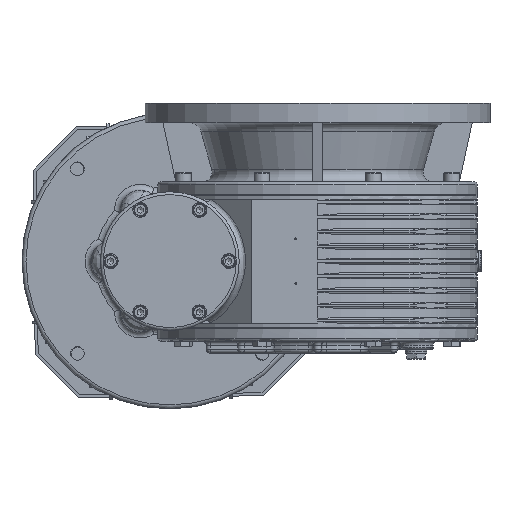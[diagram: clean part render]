
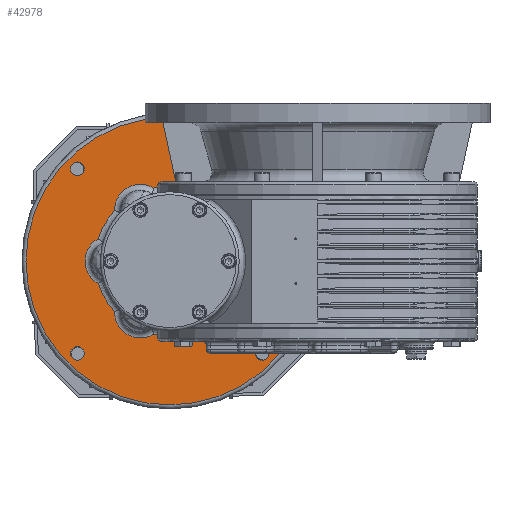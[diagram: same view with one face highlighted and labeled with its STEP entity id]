
A CAD part, left-side view. The second image highlights one B-rep face of the part: STEP entity #42978.
In plain terms, the highlighted planar face has unit normal (-1, 0, 0) as drawn and (1, 0, 0) by its records, which use the part's own axes.
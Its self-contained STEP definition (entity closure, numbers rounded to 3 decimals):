
#42804=CARTESIAN_POINT('',(15.0,146.0,0.));
#42805=VERTEX_POINT('',#42804);
#42806=CARTESIAN_POINT('',(15.0,0.0,0.0));
#42807=DIRECTION('',(-1.0,0.0,0.0));
#42808=DIRECTION('',(0.0,-1.0,0.0));
#42809=AXIS2_PLACEMENT_3D('',#42806,#42807,#42808);
#42810=CIRCLE('',#42809,146.0);
#42811=EDGE_CURVE('',#42805,#42805,#42810,.T.);
#42816=CARTESIAN_POINT('',(15.0,110.0,0.0));
#42817=DIRECTION('',(1.0,0.0,0.0));
#42818=DIRECTION('',(0.0,0.0,-1.0));
#42819=AXIS2_PLACEMENT_3D('',#42816,#42817,#42818);
#42820=PLANE('',#42819);
#42821=ORIENTED_EDGE('',*,*,#42811,.F.);
#42822=EDGE_LOOP('',(#42821));
#42823=FACE_OUTER_BOUND('',#42822,.T.);
#42824=CARTESIAN_POINT('',(15.0,16.506,74.186));
#42825=VERTEX_POINT('',#42824);
#42826=CARTESIAN_POINT('',(15.0,-16.506,74.186));
#42827=VERTEX_POINT('',#42826);
#42828=CARTESIAN_POINT('',(15.0,0.0,0.0));
#42829=DIRECTION('',(1.0,0.0,0.0));
#42830=DIRECTION('',(0.0,0.0,1.0));
#42831=AXIS2_PLACEMENT_3D('',#42828,#42829,#42830);
#42832=CIRCLE('',#42831,76.0);
#42833=EDGE_CURVE('',#42825,#42827,#42832,.T.);
#42834=ORIENTED_EDGE('',*,*,#42833,.F.);
#42835=CARTESIAN_POINT('',(15.0,55.994,51.388));
#42836=VERTEX_POINT('',#42835);
#42837=CARTESIAN_POINT('',(15.0,30.,51.962));
#42838=DIRECTION('',(1.0,0.0,0.0));
#42839=DIRECTION('',(0.0,0.5,0.866));
#42840=AXIS2_PLACEMENT_3D('',#42837,#42838,#42839);
#42841=CIRCLE('',#42840,26.);
#42842=EDGE_CURVE('',#42836,#42825,#42841,.T.);
#42843=ORIENTED_EDGE('',*,*,#42842,.F.);
#42844=CARTESIAN_POINT('',(15.0,72.5,22.798));
#42845=VERTEX_POINT('',#42844);
#42846=CARTESIAN_POINT('',(15.0,0.0,0.0));
#42847=DIRECTION('',(1.0,0.0,0.0));
#42848=DIRECTION('',(0.0,0.866,0.5));
#42849=AXIS2_PLACEMENT_3D('',#42846,#42847,#42848);
#42850=CIRCLE('',#42849,76.0);
#42851=EDGE_CURVE('',#42845,#42836,#42850,.T.);
#42852=ORIENTED_EDGE('',*,*,#42851,.F.);
#42853=CARTESIAN_POINT('',(15.0,72.5,-22.798));
#42854=VERTEX_POINT('',#42853);
#42855=CARTESIAN_POINT('',(15.0,60.0,0.));
#42856=DIRECTION('',(1.0,0.0,0.0));
#42857=DIRECTION('',(0.0,1.0,0.0));
#42858=AXIS2_PLACEMENT_3D('',#42855,#42856,#42857);
#42859=CIRCLE('',#42858,26.);
#42860=EDGE_CURVE('',#42854,#42845,#42859,.T.);
#42861=ORIENTED_EDGE('',*,*,#42860,.F.);
#42862=CARTESIAN_POINT('',(15.0,55.994,-51.388));
#42863=VERTEX_POINT('',#42862);
#42864=CARTESIAN_POINT('',(15.0,0.0,0.0));
#42865=DIRECTION('',(1.0,0.0,0.0));
#42866=DIRECTION('',(0.0,0.866,-0.5));
#42867=AXIS2_PLACEMENT_3D('',#42864,#42865,#42866);
#42868=CIRCLE('',#42867,76.);
#42869=EDGE_CURVE('',#42863,#42854,#42868,.T.);
#42870=ORIENTED_EDGE('',*,*,#42869,.F.);
#42871=CARTESIAN_POINT('',(15.0,16.506,-74.186));
#42872=VERTEX_POINT('',#42871);
#42873=CARTESIAN_POINT('',(15.0,30.,-51.962));
#42874=DIRECTION('',(1.0,0.0,0.0));
#42875=DIRECTION('',(0.0,0.5,-0.866));
#42876=AXIS2_PLACEMENT_3D('',#42873,#42874,#42875);
#42877=CIRCLE('',#42876,26.);
#42878=EDGE_CURVE('',#42872,#42863,#42877,.T.);
#42879=ORIENTED_EDGE('',*,*,#42878,.F.);
#42880=CARTESIAN_POINT('',(15.0,-16.506,-74.186));
#42881=VERTEX_POINT('',#42880);
#42882=CARTESIAN_POINT('',(15.0,0.0,0.0));
#42883=DIRECTION('',(1.0,0.0,0.0));
#42884=DIRECTION('',(0.0,0.0,-1.0));
#42885=AXIS2_PLACEMENT_3D('',#42882,#42883,#42884);
#42886=CIRCLE('',#42885,76.0);
#42887=EDGE_CURVE('',#42881,#42872,#42886,.T.);
#42888=ORIENTED_EDGE('',*,*,#42887,.F.);
#42889=CARTESIAN_POINT('',(15.0,-55.994,-51.388));
#42890=VERTEX_POINT('',#42889);
#42891=CARTESIAN_POINT('',(15.0,-30.,-51.962));
#42892=DIRECTION('',(1.0,0.0,0.0));
#42893=DIRECTION('',(0.0,-0.5,-0.866));
#42894=AXIS2_PLACEMENT_3D('',#42891,#42892,#42893);
#42895=CIRCLE('',#42894,26.0);
#42896=EDGE_CURVE('',#42890,#42881,#42895,.T.);
#42897=ORIENTED_EDGE('',*,*,#42896,.F.);
#42898=CARTESIAN_POINT('',(15.0,-72.5,-22.798));
#42899=VERTEX_POINT('',#42898);
#42900=CARTESIAN_POINT('',(15.0,0.0,0.0));
#42901=DIRECTION('',(1.0,0.0,0.0));
#42902=DIRECTION('',(0.0,-0.866,-0.5));
#42903=AXIS2_PLACEMENT_3D('',#42900,#42901,#42902);
#42904=CIRCLE('',#42903,76.);
#42905=EDGE_CURVE('',#42899,#42890,#42904,.T.);
#42906=ORIENTED_EDGE('',*,*,#42905,.F.);
#42907=CARTESIAN_POINT('',(15.0,-72.5,22.798));
#42908=VERTEX_POINT('',#42907);
#42909=CARTESIAN_POINT('',(15.0,-60.0,0.));
#42910=DIRECTION('',(1.0,0.0,0.0));
#42911=DIRECTION('',(0.0,-1.0,0.0));
#42912=AXIS2_PLACEMENT_3D('',#42909,#42910,#42911);
#42913=CIRCLE('',#42912,26.0);
#42914=EDGE_CURVE('',#42908,#42899,#42913,.T.);
#42915=ORIENTED_EDGE('',*,*,#42914,.F.);
#42916=CARTESIAN_POINT('',(15.0,-55.994,51.388));
#42917=VERTEX_POINT('',#42916);
#42918=CARTESIAN_POINT('',(15.0,0.0,0.0));
#42919=DIRECTION('',(1.0,0.0,0.0));
#42920=DIRECTION('',(0.0,-0.866,0.5));
#42921=AXIS2_PLACEMENT_3D('',#42918,#42919,#42920);
#42922=CIRCLE('',#42921,76.);
#42923=EDGE_CURVE('',#42917,#42908,#42922,.T.);
#42924=ORIENTED_EDGE('',*,*,#42923,.F.);
#42925=CARTESIAN_POINT('',(15.0,-30.,51.962));
#42926=DIRECTION('',(1.0,0.0,0.0));
#42927=DIRECTION('',(0.0,-0.5,0.866));
#42928=AXIS2_PLACEMENT_3D('',#42925,#42926,#42927);
#42929=CIRCLE('',#42928,26.);
#42930=EDGE_CURVE('',#42827,#42917,#42929,.T.);
#42931=ORIENTED_EDGE('',*,*,#42930,.F.);
#42932=EDGE_LOOP('',(#42834,#42843,#42852,#42861,#42870,#42879,#42888,#42897,#42906,#42915,#42924,#42931));
#42933=FACE_BOUND('',#42932,.T.);
#42934=CARTESIAN_POINT('',(15.0,93.692,86.692));
#42935=VERTEX_POINT('',#42934);
#42936=CARTESIAN_POINT('',(15.0,93.692,93.692));
#42937=DIRECTION('',(-1.0,0.0,0.0));
#42938=DIRECTION('',(0.0,0.0,1.0));
#42939=AXIS2_PLACEMENT_3D('',#42936,#42937,#42938);
#42940=CIRCLE('',#42939,7.);
#42941=EDGE_CURVE('',#42935,#42935,#42940,.T.);
#42942=ORIENTED_EDGE('',*,*,#42941,.T.);
#42943=EDGE_LOOP('',(#42942));
#42944=FACE_BOUND('',#42943,.T.);
#42945=CARTESIAN_POINT('',(15.0,-86.692,93.692));
#42946=VERTEX_POINT('',#42945);
#42947=CARTESIAN_POINT('',(15.0,-93.692,93.692));
#42948=DIRECTION('',(-1.0,0.0,0.0));
#42949=DIRECTION('',(0.0,-1.0,0.0));
#42950=AXIS2_PLACEMENT_3D('',#42947,#42948,#42949);
#42951=CIRCLE('',#42950,7.);
#42952=EDGE_CURVE('',#42946,#42946,#42951,.T.);
#42953=ORIENTED_EDGE('',*,*,#42952,.T.);
#42954=EDGE_LOOP('',(#42953));
#42955=FACE_BOUND('',#42954,.T.);
#42956=CARTESIAN_POINT('',(15.0,-93.692,-86.692));
#42957=VERTEX_POINT('',#42956);
#42958=CARTESIAN_POINT('',(15.0,-93.692,-93.692));
#42959=DIRECTION('',(-1.0,0.0,0.0));
#42960=DIRECTION('',(0.0,0.0,-1.0));
#42961=AXIS2_PLACEMENT_3D('',#42958,#42959,#42960);
#42962=CIRCLE('',#42961,7.);
#42963=EDGE_CURVE('',#42957,#42957,#42962,.T.);
#42964=ORIENTED_EDGE('',*,*,#42963,.T.);
#42965=EDGE_LOOP('',(#42964));
#42966=FACE_BOUND('',#42965,.T.);
#42967=CARTESIAN_POINT('',(15.0,86.692,-93.692));
#42968=VERTEX_POINT('',#42967);
#42969=CARTESIAN_POINT('',(15.0,93.692,-93.692));
#42970=DIRECTION('',(-1.0,0.0,0.0));
#42971=DIRECTION('',(0.0,1.0,0.0));
#42972=AXIS2_PLACEMENT_3D('',#42969,#42970,#42971);
#42973=CIRCLE('',#42972,7.);
#42974=EDGE_CURVE('',#42968,#42968,#42973,.T.);
#42975=ORIENTED_EDGE('',*,*,#42974,.T.);
#42976=EDGE_LOOP('',(#42975));
#42977=FACE_BOUND('',#42976,.T.);
#42978=ADVANCED_FACE('',(#42823,#42933,#42944,#42955,#42966,#42977),#42820,.T.);
